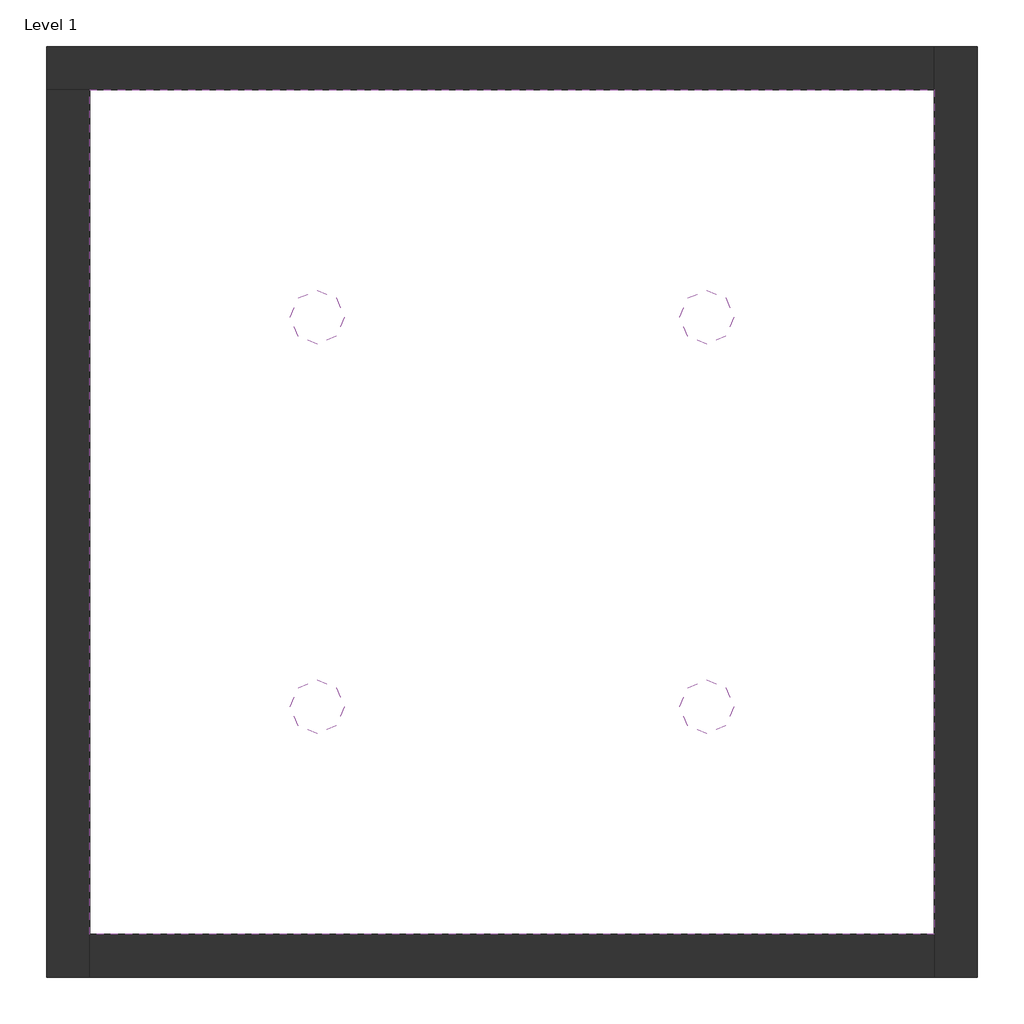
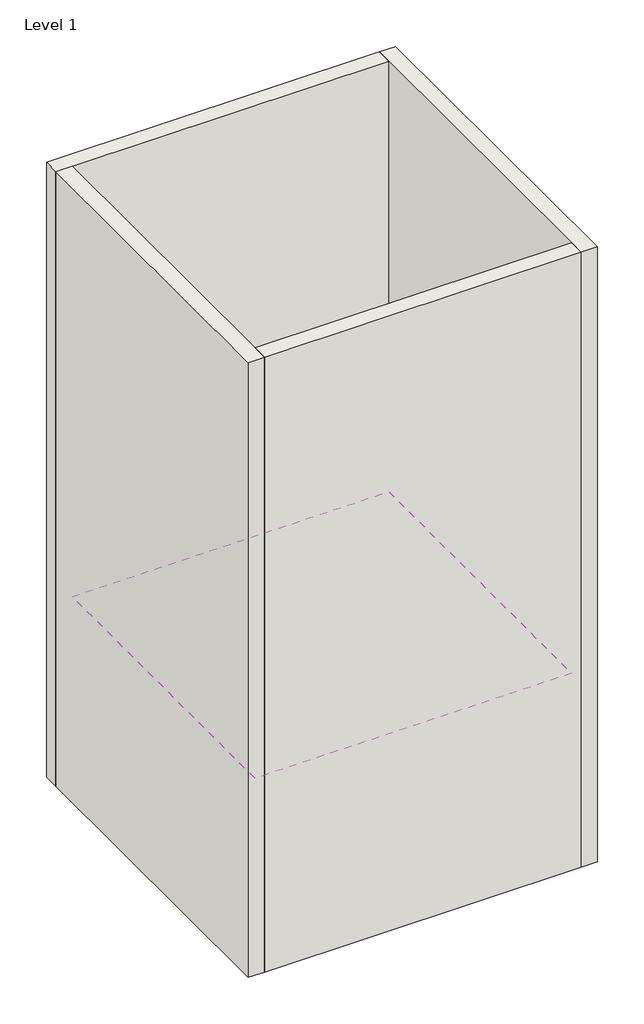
# One storey: 4 light fixtures, 4 walls, 1 covering.
"""IFC4 building model written with IfcOpenShell, lengths in millimetres."""

from ifc_helpers import new_model, si_unit, point, frame, frame_2d, origin, origin_with_axes, place, context, project, spatial, polyline, circle_curve, trimmed, segment, composite_curve, outline, extrude, faceted_brep, transform, mapped, element, save
from components import type_1_23b9b50b

model = new_model("IFC4")

# Units and contexts
model_context = context("Model", 3, world=origin())
ifc_project = project(units=[si_unit("LENGTHUNIT", "METRE", prefix="MILLI")], contexts=[model_context])

# Site, building, storey
site = spatial("IfcSite", under=ifc_project)
building = spatial("IfcBuilding", under=site)
storey = spatial("IfcBuildingStorey", under=building, Name="Level 1", Elevation=0.0)

# Covering
placement = place(None, origin())
element("IfcCovering", 1, ObjectType="600 x 600mm Grid", at=placement, inside=storey, context=model_context, shape_type="SweptSolid", body=[
    extrude(outline(polyline([(-7837.2860773, 4417.9598413), (-3937.2860773, 4417.9598413), (-3937.2860773, 517.9598413), (-7837.2860773, 517.9598413), (-7837.2860773, 4417.9598413)]), holes=[composite_curve([segment(trimmed(circle_curve(frame_2d((-6787.2860773, 3367.9598413)), 125.0), [point((-6662.2860773, 3367.9598413))], [point((-6912.2860773, 3367.9598413))], True, "CARTESIAN"), True, "CONTINUOUS"), segment(trimmed(circle_curve(frame_2d((-6787.2860773, 3367.9598413)), 125.0), [point((-6912.2860773, 3367.9598413))], [point((-6662.2860773, 3367.9598413))], True, "CARTESIAN"), True, "CONTINUOUS")], self_intersect=False), composite_curve([segment(trimmed(circle_curve(frame_2d((-4987.2860773, 3367.9598413)), 125.0), [point((-4862.2860773, 3367.9598413))], [point((-5112.2860773, 3367.9598413))], True, "CARTESIAN"), True, "CONTINUOUS"), segment(trimmed(circle_curve(frame_2d((-4987.2860773, 3367.9598413)), 125.0), [point((-5112.2860773, 3367.9598413))], [point((-4862.2860773, 3367.9598413))], True, "CARTESIAN"), True, "CONTINUOUS")], self_intersect=False), composite_curve([segment(trimmed(circle_curve(frame_2d((-4987.2860773, 1567.9598413)), 125.0), [point((-4862.2860773, 1567.9598413))], [point((-5112.2860773, 1567.9598413))], True, "CARTESIAN"), True, "CONTINUOUS"), segment(trimmed(circle_curve(frame_2d((-4987.2860773, 1567.9598413)), 125.0), [point((-5112.2860773, 1567.9598413))], [point((-4862.2860773, 1567.9598413))], True, "CARTESIAN"), True, "CONTINUOUS")], self_intersect=False), composite_curve([segment(trimmed(circle_curve(frame_2d((-6787.2860773, 1567.9598413)), 125.0), [point((-6662.2860773, 1567.9598413))], [point((-6912.2860773, 1567.9598413))], True, "CARTESIAN"), True, "CONTINUOUS"), segment(trimmed(circle_curve(frame_2d((-6787.2860773, 1567.9598413)), 125.0), [point((-6912.2860773, 1567.9598413))], [point((-6662.2860773, 1567.9598413))], True, "CARTESIAN"), True, "CONTINUOUS")], self_intersect=False)]), frame((0.0, 0.0, 2400.0), z_axis=(0.0, 0.0, 1.0), x_axis=(1.0, 0.0, 0.0)), (0.0, 0.0, 1.0), 52.0),
])

# Light fixtures
type_1_shape = type_1_23b9b50b(model_context)
element("IfcLightFixture", 2, ObjectType="200mm Open Downlight 32W TRT : Type 1", at=placement, inside=storey, context=model_context, shape_type="MappedRepresentation", body=[
    mapped(type_1_shape, transform((-6787.2860773, 3367.9598413, -1600.0), x_axis=(1.0, 0.0, 0.0), y_axis=(0.0, 1.0, 0.0), z_axis=(0.0, 0.0, 1.0))),
])
element("IfcLightFixture", 3, ObjectType="200mm Open Downlight 32W TRT : Type 1", at=placement, inside=storey, context=model_context, shape_type="MappedRepresentation", body=[
    mapped(type_1_shape, transform((-4987.2860773, 3367.9598413, -1600.0), x_axis=(1.0, 0.0, 0.0), y_axis=(0.0, 1.0, 0.0), z_axis=(0.0, 0.0, 1.0))),
])
element("IfcLightFixture", 4, ObjectType="200mm Open Downlight 32W TRT : Type 1", at=placement, inside=storey, context=model_context, shape_type="MappedRepresentation", body=[
    mapped(type_1_shape, transform((-4987.2860773, 1567.9598413, -1600.0), x_axis=(1.0, 0.0, 0.0), y_axis=(0.0, 1.0, 0.0), z_axis=(0.0, 0.0, 1.0))),
])
element("IfcLightFixture", 5, ObjectType="200mm Open Downlight 32W TRT : Type 1", at=placement, inside=storey, context=model_context, shape_type="MappedRepresentation", body=[
    mapped(type_1_shape, transform((-6787.2860773, 1567.9598413, -1600.0), x_axis=(1.0, 0.0, 0.0), y_axis=(0.0, 1.0, 0.0), z_axis=(0.0, 0.0, 1.0))),
])

# Walls
element("IfcWall", 6, ObjectType="Generic - 200mm", at=placement, inside=storey, context=model_context, shape_type="Brep", body=[
    faceted_brep([(-8037.2860773, 4417.9598413, 0.0), (-7837.2860773, 4417.9598413, 0.0), (-3937.2860773, 4417.9598413, 0.0), (-3937.2860773, 4417.9598413, 8000.0), (-7837.2860773, 4417.9598413, 8000.0), (-8037.2860773, 4417.9598413, 8000.0), (-8037.2860773, 4617.9598413, 0.0), (-8037.2860773, 4617.9598413, 8000.0), (-3937.2860773, 4617.9598413, 8000.0), (-3937.2860773, 4617.9598413, 0.0)], [[[0, 1, 2, 3, 4, 5]], [[6, 7, 8, 9]], [[2, 1, 0, 6, 9]], [[5, 4, 3, 8, 7]], [[0, 5, 7, 6]], [[3, 2, 9, 8]]]),
])
element("IfcWall", 7, ObjectType="Generic - 200mm", at=placement, inside=storey, context=model_context, shape_type="Brep", body=[
    faceted_brep([(-7837.2860773, 317.9598413, 0.0), (-7837.2860773, 517.9598413, 0.0), (-7837.2860773, 4417.9598413, 0.0), (-7837.2860773, 4417.9598413, 8000.0), (-7837.2860773, 517.9598413, 8000.0), (-7837.2860773, 317.9598413, 8000.0), (-8037.2860773, 317.9598413, 0.0), (-8037.2860773, 317.9598413, 8000.0), (-8037.2860773, 4417.9598413, 8000.0), (-8037.2860773, 4417.9598413, 0.0)], [[[0, 1, 2, 3, 4, 5]], [[6, 7, 8, 9]], [[2, 1, 0, 6, 9]], [[5, 4, 3, 8, 7]], [[0, 5, 7, 6]], [[3, 2, 9, 8]]]),
])
element("IfcWall", 8, ObjectType="Generic - 200mm", at=placement, inside=storey, context=model_context, shape_type="SweptSolid", body=[
    extrude(outline(polyline([(-7837.2860773, 517.9598413), (-3937.2860773, 517.9598413), (-3937.2860773, 317.9598413), (-7837.2860773, 317.9598413), (-7837.2860773, 517.9598413)])), origin_with_axes(), (0.0, 0.0, 1.0), 8000.0),
])
element("IfcWall", 9, ObjectType="Generic - 200mm", at=placement, inside=storey, context=model_context, shape_type="Brep", body=[
    faceted_brep([(-3937.2860773, 4617.9598413, 0.0), (-3937.2860773, 4417.9598413, 0.0), (-3937.2860773, 517.9598413, 0.0), (-3937.2860773, 317.9598413, 0.0), (-3937.2860773, 317.9598413, 8000.0), (-3937.2860773, 517.9598413, 8000.0), (-3937.2860773, 4417.9598413, 8000.0), (-3937.2860773, 4617.9598413, 8000.0), (-3737.2860773, 4617.9598413, 0.0), (-3737.2860773, 4617.9598413, 8000.0), (-3737.2860773, 317.9598413, 8000.0), (-3737.2860773, 317.9598413, 0.0)], [[[0, 1, 2, 3, 4, 5, 6, 7]], [[8, 9, 10, 11]], [[3, 2, 1, 0, 8, 11]], [[7, 6, 5, 4, 10, 9]], [[0, 7, 9, 8]], [[4, 3, 11, 10]]]),
])

save(model, "model.ifc")
